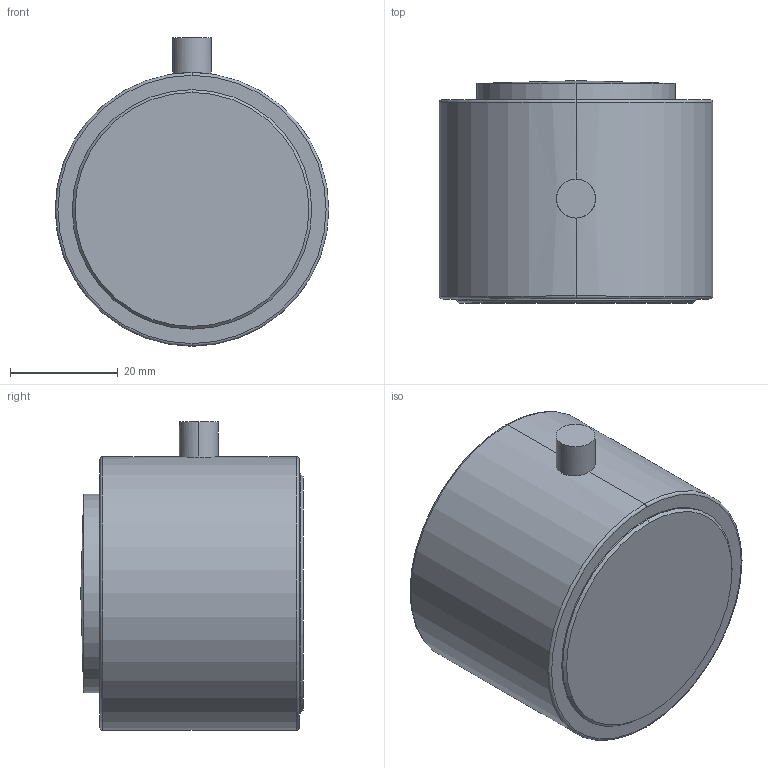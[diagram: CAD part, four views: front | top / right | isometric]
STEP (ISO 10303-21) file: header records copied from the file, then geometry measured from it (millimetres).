
FILE_DESCRIPTION (( 'STEP AP203' ), '1' );
FILE_NAME ('FINAL ASBY SS1379-30KLB.STEP', '2022-12-13T14:20:56', ( '' ), ( '' ), 'SwSTEP 2.0', 'SolidWorks 2008', '' );
FILE_SCHEMA (( 'CONFIG_CONTROL_DESIGN' ));
Length unit declared in the file: inch
Products named in the file (1): FINAL ASBY SS1379-30KLB
Bounding box: 50.8 x 41.27 x 57.28 mm (x, y, z)
Volume: 79493.4 mm3; surface area: 15940.7 mm2
Topology: 1 solids, 1 shells, 25 faces, 62 edges, 38 vertices
Faces by surface type: cylinder 12, torus 6, plane 4, cone 2, sphere 1
Entity records: 982 total; most frequent: CARTESIAN_POINT 321, DIRECTION 129, ORIENTED_EDGE 118, EDGE_CURVE 59, AXIS2_PLACEMENT_3D 56, VERTEX_POINT 36, CIRCLE 30, EDGE_LOOP 27
